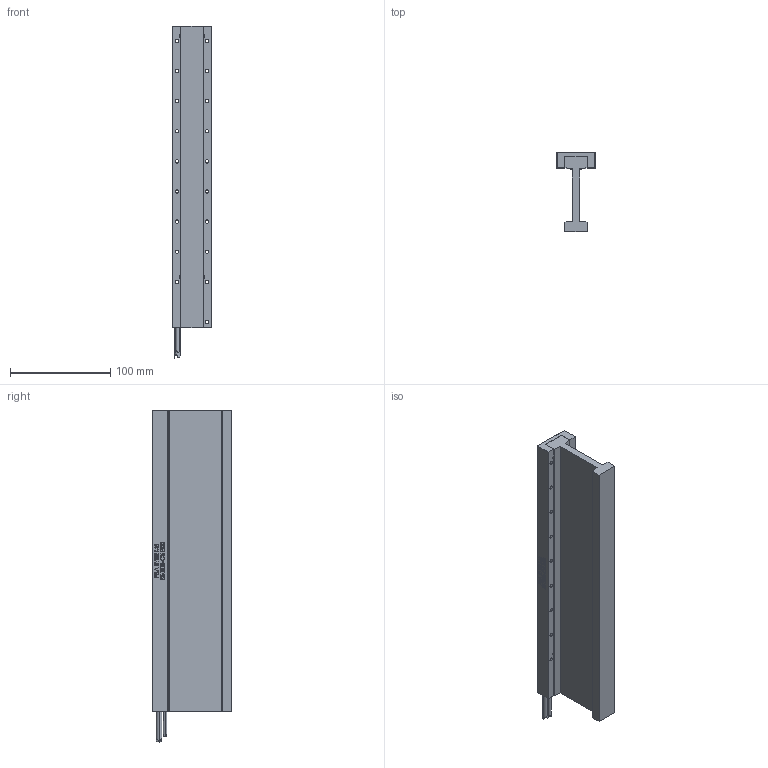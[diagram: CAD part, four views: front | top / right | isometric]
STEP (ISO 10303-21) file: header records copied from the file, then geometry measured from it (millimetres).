
FILE_DESCRIPTION (( 'STEP AP203' ), '1' );
FILE_NAME ('DX50B-C5-000.STEP', '2015-05-28T02:42:19', ( 'PBAsystems' ), ( '' ), 'SwSTEP 2.0', 'SolidWorks 2013', '' );
FILE_SCHEMA (( 'CONFIG_CONTROL_DESIGN' ));
Length unit declared in the file: millimetre
Products named in the file (5): DX50B-C5-000; DX50B-C5-001_CUSTOMER; DX50B-CX-002_C5; CBL_MTR_PWR_SS_7C2C_SA (#2936-1); CBL_MTR_HALL_SS_5C_SA (#2935-1)
Assembly tree (4 placements, depth 2):
  DX50B-C5-000
    DX50B-C5-001_CUSTOMER
    DX50B-CX-002_C5
    CBL_MTR_PWR_SS_7C2C_SA (#2936-1)
    CBL_MTR_HALL_SS_5C_SA (#2935-1)
Bounding box: 38.2 x 79.15 x 331 mm (x, y, z)
Volume: 358183.8 mm3; surface area: 112251.4 mm2
Topology: 4 solids, 5 shells, 697 faces, 1855 edges, 1231 vertices
Faces by surface type: plane 374, bspline 268, cylinder 53, cone 2
Entity records: 37270 total; most frequent: CARTESIAN_POINT 21078, ORIENTED_EDGE 3706, DIRECTION 2287, EDGE_CURVE 1853, VERTEX_POINT 1231, LINE 1215, VECTOR 1215, EDGE_LOOP 800
